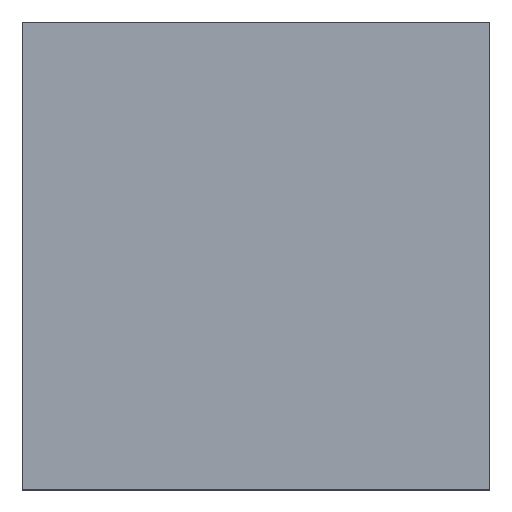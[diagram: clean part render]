
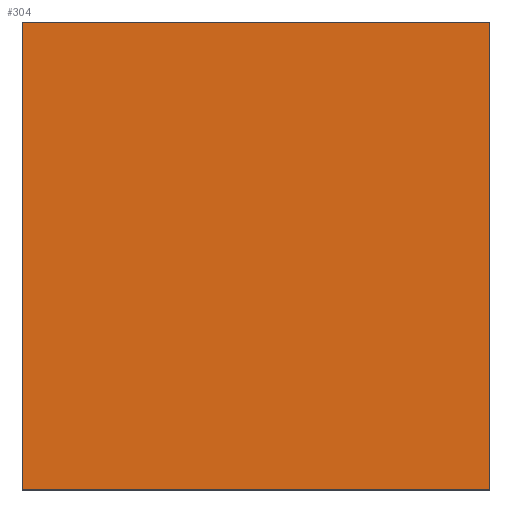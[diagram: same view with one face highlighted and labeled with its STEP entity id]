
A CAD part, top view. The second image highlights one B-rep face of the part: STEP entity #304.
In plain terms, the highlighted planar face has unit normal (0, 0, 1).
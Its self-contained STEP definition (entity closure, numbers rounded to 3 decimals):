
#1 = VERTEX_POINT ( 'NONE', #328 ) ;
#17 = EDGE_CURVE ( 'NONE', #1144, #929, #810, .T. ) ;
#112 = EDGE_LOOP ( 'NONE', ( #438, #132, #293, #1127 ) ) ;
#128 = VECTOR ( 'NONE', #761, 1000. ) ;
#132 = ORIENTED_EDGE ( 'NONE', *, *, #1107, .T. ) ;
#153 = VECTOR ( 'NONE', #1502, 1000. ) ;
#268 = FACE_OUTER_BOUND ( 'NONE', #112, .T. ) ;
#271 = VERTEX_POINT ( 'NONE', #1472 ) ;
#293 = ORIENTED_EDGE ( 'NONE', *, *, #17, .T. ) ;
#304 = ADVANCED_FACE ( 'NONE', ( #268 ), #1125, .F. ) ;
#328 = CARTESIAN_POINT ( 'NONE',  ( 0., 63., 12.5 ) ) ;
#378 = CARTESIAN_POINT ( 'NONE',  ( 0., 0., 12.5 ) ) ;
#438 = ORIENTED_EDGE ( 'NONE', *, *, #744, .T. ) ;
#500 = CARTESIAN_POINT ( 'NONE',  ( 0., 0., 12.5 ) ) ;
#509 = LINE ( 'NONE', #378, #128 ) ;
#515 = LINE ( 'NONE', #500, #965 ) ;
#529 = CARTESIAN_POINT ( 'NONE',  ( 0., 0., 12.5 ) ) ;
#633 = CARTESIAN_POINT ( 'NONE',  ( 63., 0., 12.5 ) ) ;
#638 = DIRECTION ( 'NONE',  ( 1., 0., 0. ) ) ;
#674 = DIRECTION ( 'NONE',  ( 0., 1., 0. ) ) ;
#695 = CARTESIAN_POINT ( 'NONE',  ( 63., 0., 12.5 ) ) ;
#737 = DIRECTION ( 'NONE',  ( 0., 0., -1. ) ) ;
#744 = EDGE_CURVE ( 'NONE', #1, #271, #509, .T. ) ;
#761 = DIRECTION ( 'NONE',  ( 0., -1., 0. ) ) ;
#810 = LINE ( 'NONE', #695, #1314 ) ;
#862 = EDGE_CURVE ( 'NONE', #929, #1, #1131, .T. ) ;
#929 = VERTEX_POINT ( 'NONE', #1495 ) ;
#965 = VECTOR ( 'NONE', #638, 1000. ) ;
#1107 = EDGE_CURVE ( 'NONE', #271, #1144, #515, .T. ) ;
#1125 = PLANE ( 'NONE',  #1307 ) ;
#1127 = ORIENTED_EDGE ( 'NONE', *, *, #862, .T. ) ;
#1131 = LINE ( 'NONE', #1364, #153 ) ;
#1144 = VERTEX_POINT ( 'NONE', #633 ) ;
#1226 = DIRECTION ( 'NONE',  ( -1., 0., 0. ) ) ;
#1307 = AXIS2_PLACEMENT_3D ( 'NONE', #529, #737, #1226 ) ;
#1314 = VECTOR ( 'NONE', #674, 1000. ) ;
#1364 = CARTESIAN_POINT ( 'NONE',  ( 0., 63., 12.5 ) ) ;
#1472 = CARTESIAN_POINT ( 'NONE',  ( 0., 0., 12.5 ) ) ;
#1495 = CARTESIAN_POINT ( 'NONE',  ( 63., 63., 12.5 ) ) ;
#1502 = DIRECTION ( 'NONE',  ( -1., 0., 0. ) ) ;
